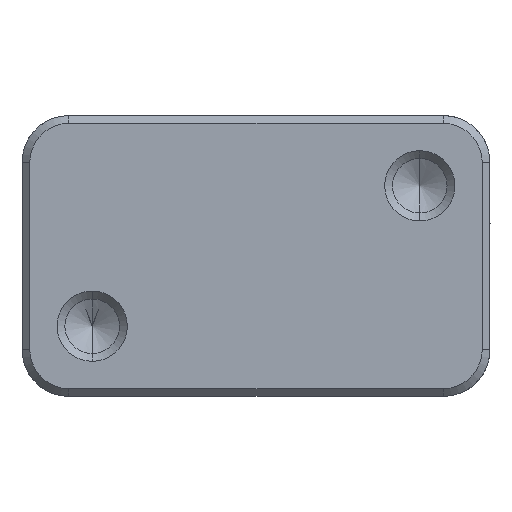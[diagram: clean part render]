
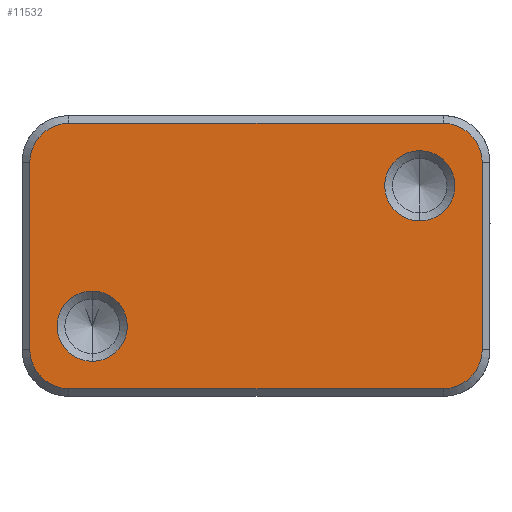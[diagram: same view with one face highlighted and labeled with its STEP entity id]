
A CAD part, front view. The second image highlights one B-rep face of the part: STEP entity #11532.
In plain terms, the highlighted planar face has unit normal (0, -1, 0).
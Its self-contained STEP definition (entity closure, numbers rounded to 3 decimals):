
#179 = DIRECTION ( 'NONE',  ( 1., 0., 0. ) ) ;
#396 = CARTESIAN_POINT ( 'NONE',  ( -21., 0., -4.509 ) ) ;
#424 = ORIENTED_EDGE ( 'NONE', *, *, #7839, .T. ) ;
#434 = CARTESIAN_POINT ( 'NONE',  ( 30., 0., 17.992 ) ) ;
#583 = CIRCLE ( 'NONE', #2676, 4.5 ) ;
#900 = CARTESIAN_POINT ( 'NONE',  ( 21., 0., 8.993 ) ) ;
#1123 = AXIS2_PLACEMENT_3D ( 'NONE', #3713, #12455, #4738 ) ;
#1405 = CARTESIAN_POINT ( 'NONE',  ( -21., 0., -9.009 ) ) ;
#1435 = EDGE_CURVE ( 'NONE', #10227, #5601, #2436, .T. ) ;
#1549 = CARTESIAN_POINT ( 'NONE',  ( 21., 0., 4.493 ) ) ;
#1640 = VERTEX_POINT ( 'NONE', #2489 ) ;
#1792 = CARTESIAN_POINT ( 'NONE',  ( -29., 0., 17.992 ) ) ;
#2070 = EDGE_CURVE ( 'NONE', #1640, #10227, #11300, .T. ) ;
#2086 = ORIENTED_EDGE ( 'NONE', *, *, #12927, .T. ) ;
#2250 = ORIENTED_EDGE ( 'NONE', *, *, #8981, .T. ) ;
#2429 = VERTEX_POINT ( 'NONE', #10302 ) ;
#2436 = LINE ( 'NONE', #13564, #3167 ) ;
#2442 = CARTESIAN_POINT ( 'NONE',  ( 24., 0., -17.009 ) ) ;
#2489 = CARTESIAN_POINT ( 'NONE',  ( -29., 0., -12.009 ) ) ;
#2491 = VECTOR ( 'NONE', #13634, 1000. ) ;
#2607 = EDGE_LOOP ( 'NONE', ( #8324, #11038, #12944, #12720, #5744, #2086, #5516, #6085 ) ) ;
#2676 = AXIS2_PLACEMENT_3D ( 'NONE', #900, #11618, #9589 ) ;
#2687 = DIRECTION ( 'NONE',  ( 0., -1., 0. ) ) ;
#2708 = VECTOR ( 'NONE', #14327, 1000. ) ;
#2712 = CARTESIAN_POINT ( 'NONE',  ( 21., 0., 13.493 ) ) ;
#2787 = DIRECTION ( 'NONE',  ( 0., 1., 0. ) ) ;
#2891 = VECTOR ( 'NONE', #10572, 1000. ) ;
#3161 = CIRCLE ( 'NONE', #10562, 4.999 ) ;
#3167 = VECTOR ( 'NONE', #179, 1000. ) ;
#3286 = VERTEX_POINT ( 'NONE', #12193 ) ;
#3406 = ORIENTED_EDGE ( 'NONE', *, *, #3473, .T. ) ;
#3462 = CARTESIAN_POINT ( 'NONE',  ( 24., 0., 11.993 ) ) ;
#3473 = EDGE_CURVE ( 'NONE', #2429, #7686, #4840, .T. ) ;
#3571 = DIRECTION ( 'NONE',  ( 0., 1., 0. ) ) ;
#3713 = CARTESIAN_POINT ( 'NONE',  ( 24., 0., -12.009 ) ) ;
#3867 = CARTESIAN_POINT ( 'NONE',  ( 29., 0., 17.992 ) ) ;
#4179 = EDGE_CURVE ( 'NONE', #5601, #12263, #5298, .T. ) ;
#4738 = DIRECTION ( 'NONE',  ( 0., 0., 1. ) ) ;
#4808 = VERTEX_POINT ( 'NONE', #13641 ) ;
#4840 = CIRCLE ( 'NONE', #9456, 4.5 ) ;
#4842 = CARTESIAN_POINT ( 'NONE',  ( 29., 0., -12.009 ) ) ;
#5010 = AXIS2_PLACEMENT_3D ( 'NONE', #1405, #5824, #10244 ) ;
#5011 = EDGE_CURVE ( 'NONE', #12572, #6438, #6702, .T. ) ;
#5298 = CIRCLE ( 'NONE', #1123, 4.999 ) ;
#5516 = ORIENTED_EDGE ( 'NONE', *, *, #12753, .T. ) ;
#5601 = VERTEX_POINT ( 'NONE', #2442 ) ;
#5650 = CARTESIAN_POINT ( 'NONE',  ( 30., 0., 16.992 ) ) ;
#5744 = ORIENTED_EDGE ( 'NONE', *, *, #13546, .T. ) ;
#5824 = DIRECTION ( 'NONE',  ( 0., 1., 0. ) ) ;
#6085 = ORIENTED_EDGE ( 'NONE', *, *, #11624, .T. ) ;
#6438 = VERTEX_POINT ( 'NONE', #1549 ) ;
#6461 = CARTESIAN_POINT ( 'NONE',  ( -21., 0., -9.009 ) ) ;
#6702 = CIRCLE ( 'NONE', #11085, 4.5 ) ;
#6969 = FACE_BOUND ( 'NONE', #13722, .T. ) ;
#6984 = DIRECTION ( 'NONE',  ( 0., 0., -1. ) ) ;
#7033 = EDGE_CURVE ( 'NONE', #8737, #1640, #10716, .T. ) ;
#7321 = AXIS2_PLACEMENT_3D ( 'NONE', #434, #2687, #12444 ) ;
#7686 = VERTEX_POINT ( 'NONE', #396 ) ;
#7839 = EDGE_CURVE ( 'NONE', #6438, #12572, #583, .T. ) ;
#8030 = CARTESIAN_POINT ( 'NONE',  ( 24., 0., 16.992 ) ) ;
#8121 = PLANE ( 'NONE',  #7321 ) ;
#8144 = LINE ( 'NONE', #3867, #2491 ) ;
#8190 = DIRECTION ( 'NONE',  ( 0., 0., 1. ) ) ;
#8206 = CARTESIAN_POINT ( 'NONE',  ( 21., 0., 8.993 ) ) ;
#8324 = ORIENTED_EDGE ( 'NONE', *, *, #7033, .T. ) ;
#8725 = CIRCLE ( 'NONE', #11486, 4.999 ) ;
#8737 = VERTEX_POINT ( 'NONE', #14005 ) ;
#8981 = EDGE_CURVE ( 'NONE', #7686, #2429, #9402, .T. ) ;
#9036 = DIRECTION ( 'NONE',  ( 0., 0., 1. ) ) ;
#9374 = DIRECTION ( 'NONE',  ( 0., 0., -1. ) ) ;
#9402 = CIRCLE ( 'NONE', #5010, 4.5 ) ;
#9456 = AXIS2_PLACEMENT_3D ( 'NONE', #6461, #2787, #9374 ) ;
#9589 = DIRECTION ( 'NONE',  ( 0., 0., -1. ) ) ;
#9633 = CARTESIAN_POINT ( 'NONE',  ( -24., 0., -17.009 ) ) ;
#10145 = AXIS2_PLACEMENT_3D ( 'NONE', #11681, #12758, #10616 ) ;
#10227 = VERTEX_POINT ( 'NONE', #9633 ) ;
#10244 = DIRECTION ( 'NONE',  ( 0., 0., -1. ) ) ;
#10302 = CARTESIAN_POINT ( 'NONE',  ( -21., 0., -13.509 ) ) ;
#10441 = FACE_BOUND ( 'NONE', #14286, .T. ) ;
#10562 = AXIS2_PLACEMENT_3D ( 'NONE', #13682, #13531, #8190 ) ;
#10572 = DIRECTION ( 'NONE',  ( 0., 0., -1. ) ) ;
#10616 = DIRECTION ( 'NONE',  ( 0., 0., 1. ) ) ;
#10716 = LINE ( 'NONE', #1792, #2891 ) ;
#11038 = ORIENTED_EDGE ( 'NONE', *, *, #2070, .T. ) ;
#11071 = DIRECTION ( 'NONE',  ( 0., -1., 0. ) ) ;
#11085 = AXIS2_PLACEMENT_3D ( 'NONE', #8206, #3571, #6984 ) ;
#11300 = CIRCLE ( 'NONE', #10145, 4.999 ) ;
#11486 = AXIS2_PLACEMENT_3D ( 'NONE', #3462, #11071, #9036 ) ;
#11532 = ADVANCED_FACE ( 'NONE', ( #6969, #10441, #12515 ), #8121, .T. ) ;
#11618 = DIRECTION ( 'NONE',  ( 0., 1., 0. ) ) ;
#11624 = EDGE_CURVE ( 'NONE', #4808, #8737, #3161, .T. ) ;
#11681 = CARTESIAN_POINT ( 'NONE',  ( -24., 0., -12.009 ) ) ;
#12028 = VERTEX_POINT ( 'NONE', #8030 ) ;
#12193 = CARTESIAN_POINT ( 'NONE',  ( 29., 0., 11.993 ) ) ;
#12263 = VERTEX_POINT ( 'NONE', #4842 ) ;
#12444 = DIRECTION ( 'NONE',  ( 1., 0., 0. ) ) ;
#12455 = DIRECTION ( 'NONE',  ( 0., -1., 0. ) ) ;
#12515 = FACE_OUTER_BOUND ( 'NONE', #2607, .T. ) ;
#12572 = VERTEX_POINT ( 'NONE', #2712 ) ;
#12720 = ORIENTED_EDGE ( 'NONE', *, *, #4179, .T. ) ;
#12753 = EDGE_CURVE ( 'NONE', #12028, #4808, #13517, .T. ) ;
#12758 = DIRECTION ( 'NONE',  ( 0., -1., 0. ) ) ;
#12927 = EDGE_CURVE ( 'NONE', #3286, #12028, #8725, .T. ) ;
#12944 = ORIENTED_EDGE ( 'NONE', *, *, #1435, .T. ) ;
#13517 = LINE ( 'NONE', #5650, #2708 ) ;
#13531 = DIRECTION ( 'NONE',  ( 0., -1., 0. ) ) ;
#13546 = EDGE_CURVE ( 'NONE', #12263, #3286, #8144, .T. ) ;
#13564 = CARTESIAN_POINT ( 'NONE',  ( -282.5, 0., -17.009 ) ) ;
#13634 = DIRECTION ( 'NONE',  ( 0., 0., 1. ) ) ;
#13641 = CARTESIAN_POINT ( 'NONE',  ( -24., 0., 16.992 ) ) ;
#13682 = CARTESIAN_POINT ( 'NONE',  ( -24., 0., 11.993 ) ) ;
#13722 = EDGE_LOOP ( 'NONE', ( #424, #13758 ) ) ;
#13758 = ORIENTED_EDGE ( 'NONE', *, *, #5011, .T. ) ;
#14005 = CARTESIAN_POINT ( 'NONE',  ( -29., 0., 11.993 ) ) ;
#14286 = EDGE_LOOP ( 'NONE', ( #3406, #2250 ) ) ;
#14327 = DIRECTION ( 'NONE',  ( -1., 0., 0. ) ) ;
